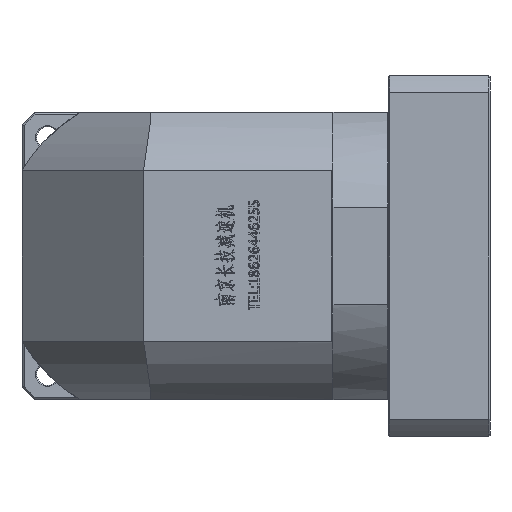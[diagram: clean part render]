
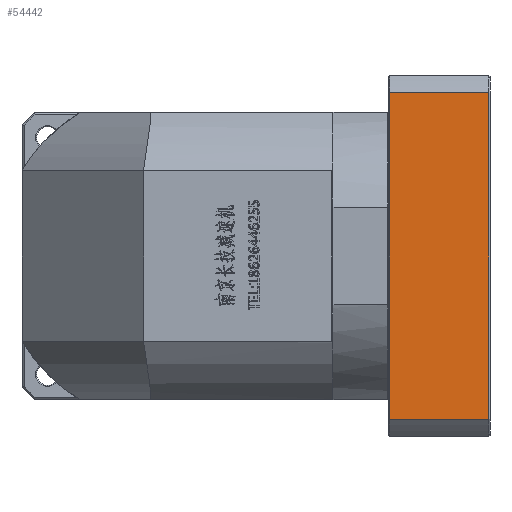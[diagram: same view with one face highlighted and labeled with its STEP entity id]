
A CAD part, left-side view. The second image highlights one B-rep face of the part: STEP entity #54442.
In plain terms, the highlighted planar face has unit normal (-1, 0, 0).
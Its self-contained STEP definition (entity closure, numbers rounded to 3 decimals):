
#66 = EDGE_CURVE ( 'NONE', #147696, #159097, #155707, .T. ) ;
#5903 = CARTESIAN_POINT ( 'NONE',  ( -128.29, -150.808, 155.747 ) ) ;
#14153 = LINE ( 'NONE', #47414, #94132 ) ;
#18580 = DIRECTION ( 'NONE',  ( 0., 1., 0. ) ) ;
#20319 = PLANE ( 'NONE',  #145483 ) ;
#21365 = CARTESIAN_POINT ( 'NONE',  ( -128.29, -199.808, 173.747 ) ) ;
#22942 = CARTESIAN_POINT ( 'NONE',  ( -128.29, -199.808, 164.255 ) ) ;
#30029 = EDGE_LOOP ( 'NONE', ( #111006, #141664, #80899, #50311 ) ) ;
#35802 = VECTOR ( 'NONE', #61934, 1000. ) ;
#38763 = VECTOR ( 'NONE', #99333, 1000. ) ;
#41235 = CARTESIAN_POINT ( 'NONE',  ( -128.29, -199.808, 325.24 ) ) ;
#47414 = CARTESIAN_POINT ( 'NONE',  ( -128.29, 192.497, 164.255 ) ) ;
#50311 = ORIENTED_EDGE ( 'NONE', *, *, #66, .F. ) ;
#54442 = ADVANCED_FACE ( 'NONE', ( #109466 ), #20319, .F. ) ;
#61934 = DIRECTION ( 'NONE',  ( 0., 0., -1. ) ) ;
#73584 = VECTOR ( 'NONE', #156890, 1000. ) ;
#74536 = LINE ( 'NONE', #5903, #38763 ) ;
#74974 = DIRECTION ( 'NONE',  ( 0., 1., 0. ) ) ;
#77981 = LINE ( 'NONE', #143368, #73584 ) ;
#80313 = VERTEX_POINT ( 'NONE', #122012 ) ;
#80899 = ORIENTED_EDGE ( 'NONE', *, *, #139210, .F. ) ;
#94132 = VECTOR ( 'NONE', #74974, 1000. ) ;
#95145 = VERTEX_POINT ( 'NONE', #97559 ) ;
#97559 = CARTESIAN_POINT ( 'NONE',  ( -128.29, -150.808, 164.255 ) ) ;
#99333 = DIRECTION ( 'NONE',  ( 0., 0., 1. ) ) ;
#109466 = FACE_OUTER_BOUND ( 'NONE', #30029, .T. ) ;
#111006 = ORIENTED_EDGE ( 'NONE', *, *, #119293, .F. ) ;
#119293 = EDGE_CURVE ( 'NONE', #80313, #147696, #77981, .T. ) ;
#122012 = CARTESIAN_POINT ( 'NONE',  ( -128.29, -150.808, 325.24 ) ) ;
#139210 = EDGE_CURVE ( 'NONE', #159097, #95145, #14153, .T. ) ;
#140273 = EDGE_CURVE ( 'NONE', #95145, #80313, #74536, .T. ) ;
#141664 = ORIENTED_EDGE ( 'NONE', *, *, #140273, .F. ) ;
#143368 = CARTESIAN_POINT ( 'NONE',  ( -128.29, 192.497, 325.24 ) ) ;
#145483 = AXIS2_PLACEMENT_3D ( 'NONE', #153683, #167225, #18580 ) ;
#147696 = VERTEX_POINT ( 'NONE', #41235 ) ;
#153683 = CARTESIAN_POINT ( 'NONE',  ( -128.29, -200.308, 155.747 ) ) ;
#155707 = LINE ( 'NONE', #21365, #35802 ) ;
#156890 = DIRECTION ( 'NONE',  ( 0., -1., 0. ) ) ;
#159097 = VERTEX_POINT ( 'NONE', #22942 ) ;
#167225 = DIRECTION ( 'NONE',  ( 1., 0., 0. ) ) ;
